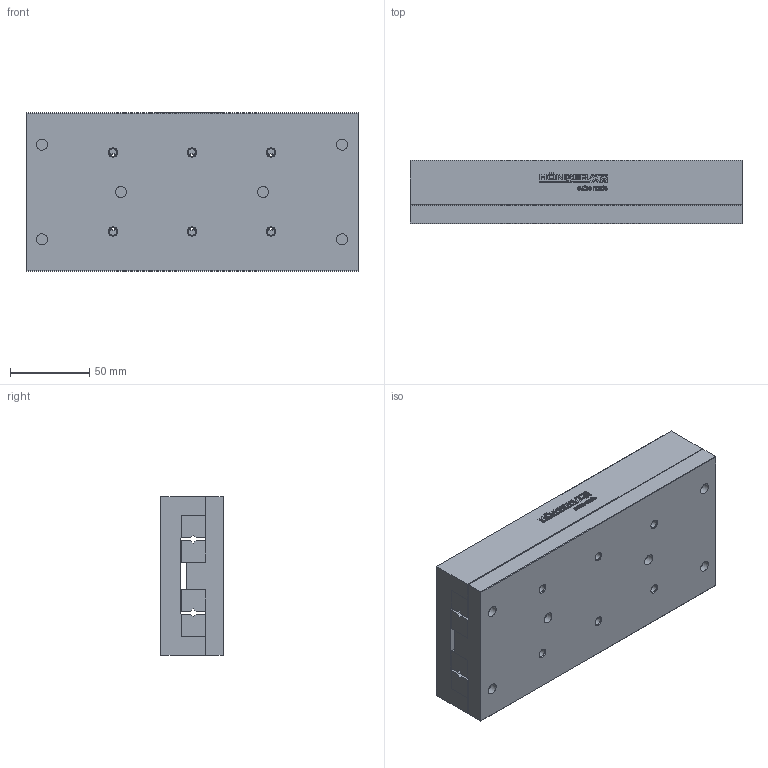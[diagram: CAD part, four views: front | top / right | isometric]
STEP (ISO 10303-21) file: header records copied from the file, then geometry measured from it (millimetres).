
FILE_DESCRIPTION(/* description */ ('STEP AP214'),/* implementation_level */ '2;1');
FILE_NAME(/* name */ 'NKL 6-210(0)',/* time_stamp */ '2025-04-24T11:41:18+02:00',/* author */ ('License CC BY-ND 4.0'),/* organization */ ('CADENAS'),/* preprocessor_version */ 'ST-DEVELOPER v19.3',/* originating_system */ 'PARTsolutions',/* authorisation */ ' ');
FILE_SCHEMA (('AUTOMOTIVE_DESIGN {1 0 10303 214 3 1 1}'));
Length unit declared in the file: millimetre
Products named in the file (3): NKL 6-210(0); NKL 6-210_1; NKL 6-210_2
Assembly tree (2 placements, depth 2):
  NKL 6-210(0)
    NKL 6-210_1
    NKL 6-210_2
Bounding box: 210 x 40 x 100 mm (x, y, z)
Volume: 799434.4 mm3; surface area: 151109.6 mm2
Topology: 2 solids, 2 shells, 627 faces, 1744 edges, 1140 vertices
Faces by surface type: cylinder 316, plane 287, cone 24
Full cylindrical faces by diameter (mm): 4.917 x12, 7 x6, 15 x6
Entity records: 19981 total; most frequent: DIRECTION 3612, CARTESIAN_POINT 3434, ORIENTED_EDGE 3360, EDGE_CURVE 1680, AXIS2_PLACEMENT_3D 1302, VERTEX_POINT 1124, LINE 1008, VECTOR 1008
